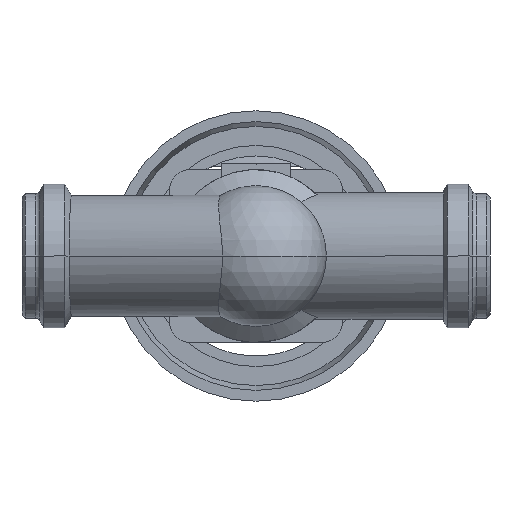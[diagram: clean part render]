
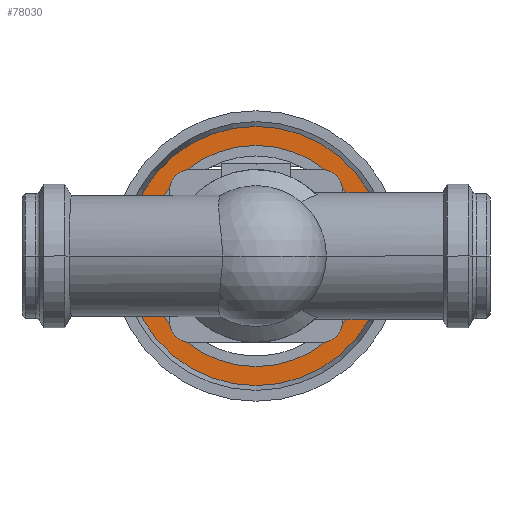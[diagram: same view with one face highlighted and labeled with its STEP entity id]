
A CAD part, front view. The second image highlights one B-rep face of the part: STEP entity #78030.
In plain terms, the highlighted planar face has unit normal (0, -1, 0).
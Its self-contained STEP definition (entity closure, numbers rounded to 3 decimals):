
#77480=CARTESIAN_POINT('',(64.677,321.,0.));
#77490=VERTEX_POINT('',#77480);
#77570=CARTESIAN_POINT('',(225.323,321.,0.))
;
#77580=VERTEX_POINT('',#77570);
#77610=CARTESIAN_POINT('',(145.,321.,0.));
#77620=DIRECTION('',(0.,1.,0.));
#77630=DIRECTION('',(-1.,0.,0.));
#77640=AXIS2_PLACEMENT_3D('',#77610,#77620,#77630);
#77650=CIRCLE('',#77640,80.323);
#77660=EDGE_CURVE('',#77490,#77580,#77650,.T.);
#77780=CARTESIAN_POINT('',(70.588,321.,0.));
#77790=DIRECTION('',(0.,-1.,0.));
#77800=DIRECTION('',(1.,0.,0.));
#77810=AXIS2_PLACEMENT_3D('',#77780,#77790,#77800);
#77820=PLANE('',#77810);
#77830=EDGE_CURVE('',#77580,#77490,#77650,.T.);
#77840=ORIENTED_EDGE('',*,*,#77830,.F.);
#77850=ORIENTED_EDGE('',*,*,#77660,.F.);
#77860=EDGE_LOOP('',(#77850,#77840));
#77870=FACE_OUTER_BOUND('',#77860,.T.);
#77880=CARTESIAN_POINT('',(145.,321.,0.));
#77890=DIRECTION('',(0.,1.,0.));
#77900=DIRECTION('',(-1.,0.,0.));
#77910=AXIS2_PLACEMENT_3D('',#77880,#77890,#77900);
#77920=CIRCLE('',#77910,68.5);
#77930=CARTESIAN_POINT('',(76.5,321.,0.));
#77940=VERTEX_POINT('',#77930);
#77950=CARTESIAN_POINT('',(213.5,321.,0.));
#77960=VERTEX_POINT('',#77950);
#77970=EDGE_CURVE('',#77940,#77960,#77920,.T.);
#77980=ORIENTED_EDGE('',*,*,#77970,.T.);
#77990=EDGE_CURVE('',#77960,#77940,#77920,.T.);
#78000=ORIENTED_EDGE('',*,*,#77990,.T.);
#78010=EDGE_LOOP('',(#78000,#77980));
#78020=FACE_BOUND('',#78010,.T.);
#78030=ADVANCED_FACE('',(#77870,#78020),#77820,.T.);
